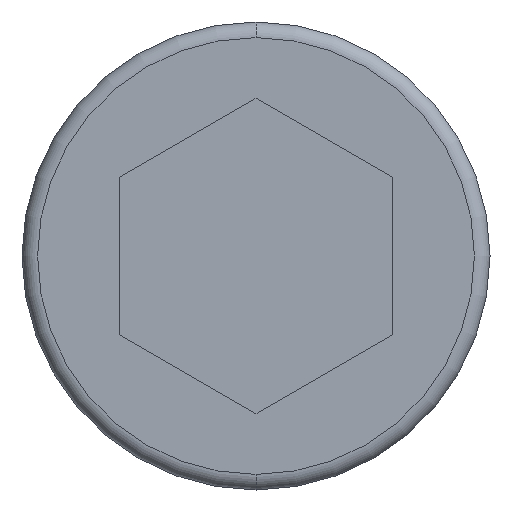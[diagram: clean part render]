
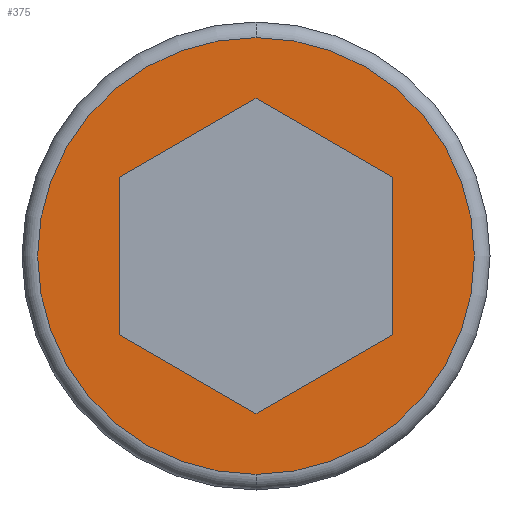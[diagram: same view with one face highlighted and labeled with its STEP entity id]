
A CAD part, front view. The second image highlights one B-rep face of the part: STEP entity #375.
In plain terms, the highlighted planar face has unit normal (0, -1, 0).
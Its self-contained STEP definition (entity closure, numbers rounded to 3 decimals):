
#4 = VERTEX_POINT ( 'NONE', #561 ) ;
#23 = EDGE_CURVE ( 'NONE', #737, #4, #246, .T. ) ;
#54 = LINE ( 'NONE', #420, #411 ) ;
#65 = DIRECTION ( 'NONE',  ( 0.866, 0., -0.5 ) ) ;
#69 = CARTESIAN_POINT ( 'NONE',  ( -7., -16., -4.041 ) ) ;
#75 = DIRECTION ( 'NONE',  ( 0., -1., 0. ) ) ;
#84 = LINE ( 'NONE', #69, #176 ) ;
#89 = DIRECTION ( 'NONE',  ( -0.866, 0., -0.5 ) ) ;
#116 = FACE_OUTER_BOUND ( 'NONE', #292, .T. ) ;
#120 = AXIS2_PLACEMENT_3D ( 'NONE', #406, #578, #458 ) ;
#123 = EDGE_CURVE ( 'NONE', #219, #249, #645, .T. ) ;
#128 = DIRECTION ( 'NONE',  ( 0., 0., -1. ) ) ;
#130 = CARTESIAN_POINT ( 'NONE',  ( 0., -16., 8.083 ) ) ;
#132 = CARTESIAN_POINT ( 'NONE',  ( 0., -16., 0. ) ) ;
#138 = VERTEX_POINT ( 'NONE', #425 ) ;
#140 = CARTESIAN_POINT ( 'NONE',  ( -7., -16., 4.041 ) ) ;
#166 = DIRECTION ( 'NONE',  ( 0.866, 0., 0.5 ) ) ;
#175 = VERTEX_POINT ( 'NONE', #711 ) ;
#176 = VECTOR ( 'NONE', #65, 1000. ) ;
#188 = ORIENTED_EDGE ( 'NONE', *, *, #123, .F. ) ;
#217 = CARTESIAN_POINT ( 'NONE',  ( 0., -16., 8.083 ) ) ;
#219 = VERTEX_POINT ( 'NONE', #741 ) ;
#224 = EDGE_CURVE ( 'NONE', #4, #737, #702, .T. ) ;
#235 = DIRECTION ( 'NONE',  ( -0.866, 0., 0.5 ) ) ;
#246 = CIRCLE ( 'NONE', #619, 11.2 ) ;
#249 = VERTEX_POINT ( 'NONE', #130 ) ;
#253 = DIRECTION ( 'NONE',  ( 0., 0., 1. ) ) ;
#259 = EDGE_CURVE ( 'NONE', #546, #138, #720, .T. ) ;
#270 = ORIENTED_EDGE ( 'NONE', *, *, #259, .F. ) ;
#275 = PLANE ( 'NONE',  #120 ) ;
#276 = EDGE_CURVE ( 'NONE', #249, #546, #756, .T. ) ;
#283 = CARTESIAN_POINT ( 'NONE',  ( 7., -16., 4.041 ) ) ;
#292 = EDGE_LOOP ( 'NONE', ( #600, #686 ) ) ;
#296 = EDGE_LOOP ( 'NONE', ( #693, #638, #528, #270, #615, #188 ) ) ;
#298 = VECTOR ( 'NONE', #89, 1000. ) ;
#316 = CARTESIAN_POINT ( 'NONE',  ( 0., -16., 11.2 ) ) ;
#334 = DIRECTION ( 'NONE',  ( 0., 0., -1. ) ) ;
#355 = DIRECTION ( 'NONE',  ( 0., -1., 0. ) ) ;
#375 = ADVANCED_FACE ( 'NONE', ( #116, #383 ), #275, .T. ) ;
#383 = FACE_BOUND ( 'NONE', #296, .T. ) ;
#385 = CARTESIAN_POINT ( 'NONE',  ( 0., -16., 0. ) ) ;
#397 = VERTEX_POINT ( 'NONE', #581 ) ;
#406 = CARTESIAN_POINT ( 'NONE',  ( 0., -16., 0. ) ) ;
#411 = VECTOR ( 'NONE', #166, 1000. ) ;
#420 = CARTESIAN_POINT ( 'NONE',  ( 0., -16., -8.083 ) ) ;
#425 = CARTESIAN_POINT ( 'NONE',  ( -7., -16., -4.041 ) ) ;
#458 = DIRECTION ( 'NONE',  ( 0., 0., -1. ) ) ;
#466 = DIRECTION ( 'NONE',  ( 0., 0., -1. ) ) ;
#476 = AXIS2_PLACEMENT_3D ( 'NONE', #385, #75, #128 ) ;
#528 = ORIENTED_EDGE ( 'NONE', *, *, #665, .F. ) ;
#531 = VECTOR ( 'NONE', #253, 1000. ) ;
#539 = EDGE_CURVE ( 'NONE', #175, #397, #54, .T. ) ;
#546 = VERTEX_POINT ( 'NONE', #594 ) ;
#561 = CARTESIAN_POINT ( 'NONE',  ( 0., -16., -11.2 ) ) ;
#578 = DIRECTION ( 'NONE',  ( 0., -1., 0. ) ) ;
#581 = CARTESIAN_POINT ( 'NONE',  ( 7., -16., -4.041 ) ) ;
#594 = CARTESIAN_POINT ( 'NONE',  ( -7., -16., 4.041 ) ) ;
#600 = ORIENTED_EDGE ( 'NONE', *, *, #224, .T. ) ;
#604 = CARTESIAN_POINT ( 'NONE',  ( 7., -16., -4.041 ) ) ;
#615 = ORIENTED_EDGE ( 'NONE', *, *, #276, .F. ) ;
#619 = AXIS2_PLACEMENT_3D ( 'NONE', #132, #355, #466 ) ;
#638 = ORIENTED_EDGE ( 'NONE', *, *, #539, .F. ) ;
#645 = LINE ( 'NONE', #283, #769 ) ;
#665 = EDGE_CURVE ( 'NONE', #138, #175, #84, .T. ) ;
#683 = VECTOR ( 'NONE', #334, 1000. ) ;
#684 = LINE ( 'NONE', #604, #531 ) ;
#686 = ORIENTED_EDGE ( 'NONE', *, *, #23, .T. ) ;
#693 = ORIENTED_EDGE ( 'NONE', *, *, #694, .F. ) ;
#694 = EDGE_CURVE ( 'NONE', #397, #219, #684, .T. ) ;
#702 = CIRCLE ( 'NONE', #476, 11.2 ) ;
#711 = CARTESIAN_POINT ( 'NONE',  ( 0., -16., -8.083 ) ) ;
#720 = LINE ( 'NONE', #140, #683 ) ;
#737 = VERTEX_POINT ( 'NONE', #316 ) ;
#741 = CARTESIAN_POINT ( 'NONE',  ( 7., -16., 4.041 ) ) ;
#756 = LINE ( 'NONE', #217, #298 ) ;
#769 = VECTOR ( 'NONE', #235, 1000. ) ;
